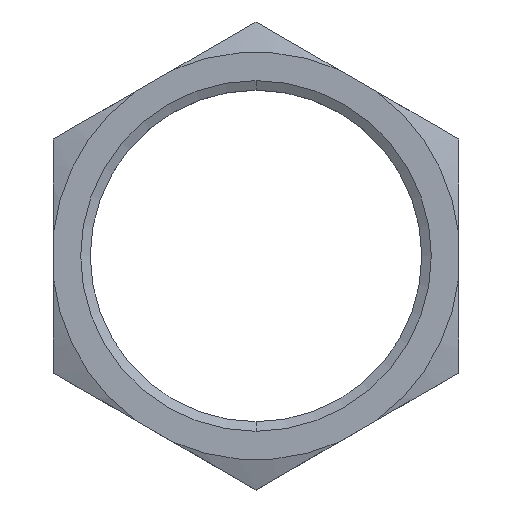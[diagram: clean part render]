
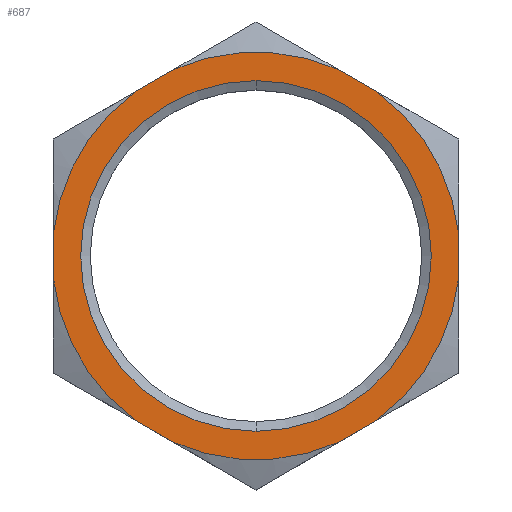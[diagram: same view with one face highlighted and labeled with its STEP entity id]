
A CAD part, top view. The second image highlights one B-rep face of the part: STEP entity #687.
In plain terms, the highlighted planar face has unit normal (0, 0, 1).
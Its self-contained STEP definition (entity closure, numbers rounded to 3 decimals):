
#101=CARTESIAN_POINT('',(-4.464,10.124,4.));
#153=CARTESIAN_POINT('',(4.464,10.124,4.));
#231=DIRECTION('',(0.866,-0.5,0.));
#232=VECTOR('',#231,2.392);
#233=CARTESIAN_POINT('',(-6.536,-8.928,4.));
#234=LINE('',#233,#232);
#235=CARTESIAN_POINT('',(0.,0.,4.));
#236=DIRECTION('',(0.,0.,-1.));
#237=DIRECTION('',(-0.591,-0.807,0.));
#238=AXIS2_PLACEMENT_3D('',#235,#236,#237);
#240=DIRECTION('',(0.,-1.,0.));
#241=VECTOR('',#240,2.392);
#242=CARTESIAN_POINT('',(-11.,1.196,4.));
#243=LINE('',#242,#241);
#244=CARTESIAN_POINT('',(0.,0.,4.));
#245=DIRECTION('',(0.,0.,-1.));
#246=DIRECTION('',(-0.994,0.108,0.));
#247=AXIS2_PLACEMENT_3D('',#244,#245,#246);
#249=DIRECTION('',(-0.866,-0.5,0.));
#250=VECTOR('',#249,2.392);
#251=CARTESIAN_POINT('',(-4.464,10.124,4.));
#252=LINE('',#251,#250);
#253=DIRECTION('',(-0.866,0.5,0.));
#254=VECTOR('',#253,2.392);
#255=CARTESIAN_POINT('',(6.536,8.928,4.));
#256=LINE('',#255,#254);
#257=CARTESIAN_POINT('',(0.,0.,4.));
#258=DIRECTION('',(0.,0.,-1.));
#259=DIRECTION('',(0.591,0.807,0.));
#260=AXIS2_PLACEMENT_3D('',#257,#258,#259);
#262=DIRECTION('',(0.,1.,0.));
#263=VECTOR('',#262,2.392);
#264=CARTESIAN_POINT('',(11.,-1.196,4.));
#265=LINE('',#264,#263);
#266=CARTESIAN_POINT('',(0.,0.,4.));
#267=DIRECTION('',(0.,0.,-1.));
#268=DIRECTION('',(0.994,-0.108,0.));
#269=AXIS2_PLACEMENT_3D('',#266,#267,#268);
#271=DIRECTION('',(0.866,0.5,0.));
#272=VECTOR('',#271,2.392);
#273=CARTESIAN_POINT('',(4.464,-10.124,4.));
#274=LINE('',#273,#272);
#275=CARTESIAN_POINT('',(0.,0.,4.));
#276=DIRECTION('',(0.,0.,-1.));
#277=DIRECTION('',(0.,-1.,0.));
#278=AXIS2_PLACEMENT_3D('',#275,#276,#277);
#280=CARTESIAN_POINT('',(0.,0.,4.));
#281=DIRECTION('',(0.,0.,-1.));
#282=DIRECTION('',(0.,1.,0.));
#283=AXIS2_PLACEMENT_3D('',#280,#281,#282);
#323=CARTESIAN_POINT('',(0.,0.,4.));
#324=DIRECTION('',(0.,0.,1.));
#325=DIRECTION('',(-0.403,-0.915,0.));
#326=AXIS2_PLACEMENT_3D('',#323,#324,#325);
#328=CARTESIAN_POINT('',(0.,0.,4.));
#329=DIRECTION('',(0.,0.,1.));
#330=DIRECTION('',(0.403,0.915,0.));
#331=AXIS2_PLACEMENT_3D('',#328,#329,#330);
#387=CARTESIAN_POINT('',(-6.536,-8.928,4.));
#388=CARTESIAN_POINT('',(-4.464,-10.124,4.));
#389=VERTEX_POINT('',#387);
#390=VERTEX_POINT('',#388);
#391=CARTESIAN_POINT('',(4.464,-10.124,4.));
#392=CARTESIAN_POINT('',(6.536,-8.928,4.));
#393=VERTEX_POINT('',#391);
#394=VERTEX_POINT('',#392);
#411=CARTESIAN_POINT('',(-11.,-1.196,4.));
#412=VERTEX_POINT('',#411);
#413=CARTESIAN_POINT('',(-11.,1.196,4.));
#414=CARTESIAN_POINT('',(-6.536,8.928,4.));
#415=VERTEX_POINT('',#413);
#416=VERTEX_POINT('',#414);
#417=CARTESIAN_POINT('',(6.536,8.928,4.));
#418=CARTESIAN_POINT('',(11.,1.196,4.));
#419=VERTEX_POINT('',#417);
#420=VERTEX_POINT('',#418);
#421=CARTESIAN_POINT('',(11.,-1.196,4.));
#422=VERTEX_POINT('',#421);
#426=VERTEX_POINT('',#101);
#434=VERTEX_POINT('',#153);
#443=CARTESIAN_POINT('',(0.,-9.52,4.));
#444=CARTESIAN_POINT('',(0.,9.52,4.));
#445=VERTEX_POINT('',#443);
#446=VERTEX_POINT('',#444);
#655=CARTESIAN_POINT('',(0.,0.,4.));
#656=DIRECTION('',(0.,0.,1.));
#657=DIRECTION('',(1.,0.,0.));
#658=AXIS2_PLACEMENT_3D('',#655,#656,#657);
#659=PLANE('',#658);
#661=ORIENTED_EDGE('',*,*,#660,.F.);
#663=ORIENTED_EDGE('',*,*,#662,.T.);
#664=ORIENTED_EDGE('',*,*,#558,.F.);
#666=ORIENTED_EDGE('',*,*,#665,.T.);
#667=ORIENTED_EDGE('',*,*,#590,.F.);
#669=ORIENTED_EDGE('',*,*,#668,.F.);
#670=ORIENTED_EDGE('',*,*,#609,.F.);
#672=ORIENTED_EDGE('',*,*,#671,.T.);
#673=ORIENTED_EDGE('',*,*,#628,.F.);
#675=ORIENTED_EDGE('',*,*,#674,.T.);
#676=ORIENTED_EDGE('',*,*,#641,.F.);
#678=ORIENTED_EDGE('',*,*,#677,.F.);
#679=EDGE_LOOP('',(#661,#663,#664,#666,#667,#669,#670,#672,#673,#675,#676,
#678));
#680=FACE_OUTER_BOUND('',#679,.F.);
#682=ORIENTED_EDGE('',*,*,#681,.F.);
#684=ORIENTED_EDGE('',*,*,#683,.F.);
#685=EDGE_LOOP('',(#682,#684));
#686=FACE_BOUND('',#685,.F.);
#687=ADVANCED_FACE('',(#680,#686),#659,.T.);
#239=CIRCLE('',#238,11.065);
#248=CIRCLE('',#247,11.065);
#261=CIRCLE('',#260,11.065);
#270=CIRCLE('',#269,11.065);
#279=CIRCLE('',#278,9.52);
#284=CIRCLE('',#283,9.52);
#327=CIRCLE('',#326,11.065);
#332=CIRCLE('',#331,11.065);
#558=EDGE_CURVE('',#415,#412,#243,.T.);
#590=EDGE_CURVE('',#426,#416,#252,.T.);
#609=EDGE_CURVE('',#419,#434,#256,.T.);
#628=EDGE_CURVE('',#422,#420,#265,.T.);
#641=EDGE_CURVE('',#393,#394,#274,.T.);
#660=EDGE_CURVE('',#389,#390,#234,.T.);
#662=EDGE_CURVE('',#389,#412,#239,.T.);
#665=EDGE_CURVE('',#415,#416,#248,.T.);
#668=EDGE_CURVE('',#434,#426,#332,.T.);
#671=EDGE_CURVE('',#419,#420,#261,.T.);
#674=EDGE_CURVE('',#422,#394,#270,.T.);
#677=EDGE_CURVE('',#390,#393,#327,.T.);
#681=EDGE_CURVE('',#445,#446,#279,.T.);
#683=EDGE_CURVE('',#446,#445,#284,.T.);
